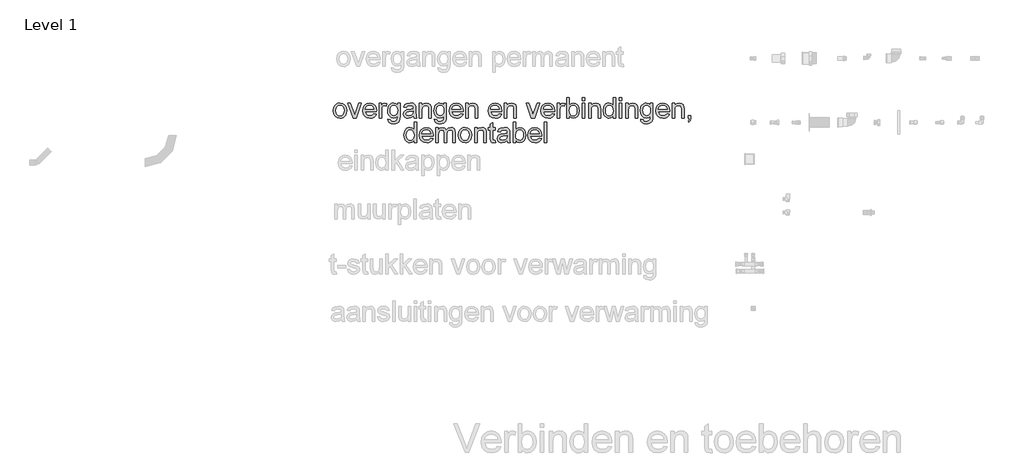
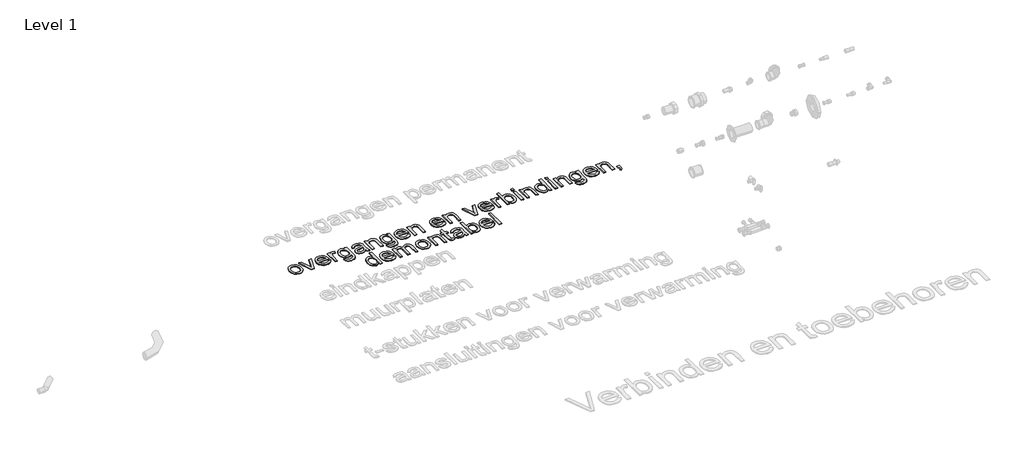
# One storey, part 6 of 7: 1 proxy.
"""IFC4 building model written with IfcOpenShell, lengths in millimetres."""

from ifc_helpers import new_model, si_unit, origin, origin_with_axes, place, context, project, spatial, polyline, outline, extrude, element, save

model = new_model("IFC4")

# Units and contexts
model_context = context("Model", 3, world=origin())
ifc_project = project(units=[si_unit("LENGTHUNIT", "METRE", prefix="MILLI")], contexts=[model_context])

# Site, building, storey
site = spatial("IfcSite", under=ifc_project)
building = spatial("IfcBuilding", under=site)
storey = spatial("IfcBuildingStorey", under=building, Name="Level 1", Elevation=0.0)

# Proxy
placement = place(None, origin())
element("IfcBuildingElementProxy", 1, Name="small", ObjectType="small", at=placement, inside=storey, context=model_context, shape_type="SweptSolid", body=[
    extrude(outline(polyline([(2256.3070309, 5306.4016737), (2260.1097045, 5331.3036059), (2271.5177252, 5348.806205), (2285.6125107, 5357.3815343), (2302.4884841, 5360.2399774), (2320.9567734, 5356.7592006), (2335.7082282, 5346.3168701), (2345.3780065, 5329.7370418), (2348.6012659, 5307.8437711), (2347.1763363, 5290.0836546), (2342.9015475, 5276.5639913), (2335.9013663, 5266.4392657), (2326.3002593, 5258.8639622), (2314.8965306, 5254.138518), (2302.4884841, 5252.5633699), (2283.797013, 5256.0312709), (2269.062726, 5266.4349737), (2259.4959547, 5283.3624506), (2256.3070309, 5306.4016737)]), holes=[polyline([(2273.8868852, 5306.4360093), (2275.9212726, 5290.5257262), (2282.0244349, 5279.1906688), (2291.2092221, 5272.4050853), (2302.4884841, 5270.1432242), (2313.7162426, 5272.4179612), (2322.8838619, 5279.2421722), (2328.9870242, 5290.7274481), (2331.0214116, 5306.9853798), (2328.9741483, 5322.4321316), (2322.8323584, 5333.6126786), (2313.6518632, 5340.398262), (2302.4884841, 5342.6601231), (2291.2092221, 5340.4068459), (2282.0244349, 5333.6470142), (2275.9212726, 5322.3377086), (2273.8868852, 5306.4360093)])]), origin_with_axes(), (0.0, 0.0, 1.0), 5.0),
    extrude(outline(polyline([(2393.7183138, 5254.7608517), (2357.391193, 5358.0424956), (2376.0011169, 5358.0424956), (2398.0102704, 5296.1696491), (2404.6370514, 5275.3622435), (2411.1264898, 5295.0022369), (2433.2729859, 5358.0424956), (2451.8829098, 5358.0424956), (2416.0021525, 5254.7608517), (2393.7183138, 5254.7608517)])), origin_with_axes(), (0.0, 0.0, 1.0), 5.0),
    extrude(outline(polyline([(2539.5761672, 5285.5255967), (2556.812665, 5283.3281149), (2550.6022038, 5270.3406542), (2540.6920759, 5260.6322484), (2527.3054633, 5254.5805895), (2510.6655475, 5252.5633699), (2490.038404, 5256.0441468), (2474.1667485, 5266.4864772), (2464.0463148, 5283.2122321), (2460.6728369, 5305.5432823), (2464.0806504, 5328.625425), (2474.3040911, 5345.8876745), (2489.9611488, 5356.6519017), (2509.6698136, 5360.2399774), (2528.7647285, 5356.6604856), (2544.0226343, 5345.9220101), (2554.0271851, 5328.6940963), (2557.3620354, 5305.6462893), (2557.2590285, 5300.9079692), (2478.2526912, 5300.9079692), (2481.2956884, 5287.7488302), (2488.3645409, 5278.07476), (2498.5665218, 5272.1261082), (2511.008904, 5270.1432242), (2528.2454018, 5273.8171391), (2539.5761672, 5285.5255967)]), holes=[polyline([(2478.2526912, 5318.4878235), (2539.7821811, 5318.4878235), (2532.7433723, 5334.4195664), (2522.4941799, 5340.5999839), (2509.6011423, 5342.6601231), (2497.7510501, 5341.0163037), (2487.9525131, 5336.0848456), (2481.141178, 5328.3979513), (2478.2526912, 5318.4878235)])]), origin_with_axes(), (0.0, 0.0, 1.0), 5.0),
    extrude(outline(polyline([(2574.9418897, 5254.7608517), (2574.9418897, 5358.0424956), (2590.3242622, 5358.0424956), (2590.3242622, 5342.7631301), (2601.2429998, 5356.8407477), (2612.2304087, 5360.2399774), (2629.8789343, 5354.8149442), (2624.0075377, 5339.0548796), (2611.6467026, 5342.6601231), (2601.7065311, 5339.1922222), (2595.3716032, 5329.5782394), (2592.521744, 5309.0455189), (2592.521744, 5254.7608517), (2574.9418897, 5254.7608517)])), origin_with_axes(), (0.0, 0.0, 1.0), 5.0),
    extrude(outline(polyline([(2636.4713797, 5245.9709246), (2654.0512339, 5243.7734428), (2659.7509523, 5234.5028165), (2676.8157718, 5230.5885521), (2694.8076539, 5235.0178513), (2703.3915671, 5247.4473577), (2704.593315, 5267.9457424), (2692.2153121, 5258.0570744), (2677.1247927, 5254.7608517), (2658.9998599, 5258.5978609), (2645.4844885, 5270.1088886), (2637.0765455, 5286.984862), (2634.2738979, 5306.9167085), (2639.304071, 5334.162049), (2645.4587368, 5345.2224212), (2653.8623878, 5353.4415181), (2664.2274631, 5358.5403626), (2676.2664014, 5360.2399774), (2691.9492108, 5356.3943843), (2704.593315, 5344.8576049), (2704.593315, 5358.0424956), (2722.1731693, 5358.0424956), (2722.1731693, 5268.8728051), (2720.9714214, 5248.2842892), (2717.3661779, 5234.7259983), (2711.1557166, 5225.7343492), (2702.1383158, 5218.8457588), (2690.5114053, 5214.4679631), (2676.4724153, 5213.0086978), (2660.1157686, 5215.064545), (2647.2356068, 5221.2320867), (2638.9735904, 5231.5284906), (2636.4713797, 5245.9709246)]), holes=[polyline([(2651.8537522, 5308.1184563), (2653.7293372, 5291.9935753), (2659.3560923, 5280.9074514), (2667.8155388, 5274.4823923), (2678.1891979, 5272.340706), (2688.4856018, 5274.4695165), (2696.9879679, 5280.8559479), (2702.6919782, 5291.8004373), (2704.593315, 5307.6034215), (2702.6361828, 5322.8441594), (2696.7647861, 5333.8186925), (2688.1379533, 5340.4497655), (2677.9145127, 5342.6601231), (2667.8756262, 5340.4841011), (2659.4590993, 5333.9560351), (2653.7550889, 5323.1445964), (2651.8537522, 5308.1184563)])]), origin_with_axes(), (0.0, 0.0, 1.0), 5.0),
    extrude(outline(polyline([(2814.4674042, 5267.9457424), (2797.4197525, 5256.0312709), (2778.5866469, 5252.5633699), (2763.8952795, 5254.6492609), (2753.058089, 5260.9069336), (2746.3755126, 5270.4093255), (2744.1479871, 5282.229374), (2747.5128811, 5296.1353134), (2756.3543117, 5306.2299954), (2768.6636433, 5311.9983851), (2783.8743375, 5314.6422304), (2814.3643972, 5320.6853053), (2814.4674042, 5324.5995697), (2813.2570724, 5332.4452664), (2809.6260771, 5337.5784465), (2801.5056952, 5341.3897039), (2790.1920976, 5342.6601231), (2772.4062294, 5339.2780613), (2763.9253232, 5327.2777506), (2746.3454689, 5329.4752324), (2753.950816, 5346.6430588), (2769.2645172, 5356.7034051), (2792.4582507, 5360.2399774), (2813.7635233, 5357.115433), (2825.7981697, 5349.2697363), (2831.1888672, 5337.3380969), (2832.0472585, 5321.9557244), (2832.0472585, 5300.0839135), (2832.9399855, 5269.5423503), (2836.4422221, 5254.7608517), (2818.8623678, 5254.7608517), (2814.4674042, 5267.9457424)]), holes=[polyline([(2814.4674042, 5303.105451), (2786.1061549, 5297.7147535), (2770.9812998, 5294.8648943), (2764.1313371, 5290.2295812), (2761.7278414, 5283.4654575), (2766.9640284, 5273.9544817), (2782.3292331, 5270.1432242), (2800.1151013, 5274.3493417), (2811.5832094, 5284.5298628), (2814.3643972, 5298.1267813), (2814.4674042, 5303.105451)])]), origin_with_axes(), (0.0, 0.0, 1.0), 5.0),
    extrude(outline(polyline([(2856.2195581, 5254.7608517), (2856.2195581, 5358.0424956), (2873.7994124, 5358.0424956), (2873.7994124, 5343.6215214), (2887.2418205, 5356.0853634), (2905.594227, 5360.2399774), (2922.1955151, 5356.8922512), (2933.5262806, 5348.1023241), (2938.7968033, 5335.1749508), (2939.7238659, 5318.1788026), (2939.7238659, 5254.7608517), (2922.1440116, 5254.7608517), (2922.1440116, 5315.8096426), (2920.1182081, 5331.3636933), (2912.9592245, 5339.5870822), (2900.8902425, 5342.6601231), (2890.5938386, 5340.9347565), (2881.8167873, 5335.7586569), (2875.8037561, 5325.758398), (2873.7994124, 5309.5605537), (2873.7994124, 5254.7608517), (2856.2195581, 5254.7608517)])), origin_with_axes(), (0.0, 0.0, 1.0), 5.0),
    extrude(outline(polyline([(2959.501202, 5245.9709246), (2977.0810563, 5243.7734428), (2982.7807746, 5234.5028165), (2999.8455941, 5230.5885521), (3017.8374762, 5235.0178513), (3026.4213895, 5247.4473577), (3027.6231373, 5267.9457424), (3015.2451344, 5258.0570744), (3000.154615, 5254.7608517), (2982.0296822, 5258.5978609), (2968.5143109, 5270.1088886), (2960.1063679, 5286.984862), (2957.3037202, 5306.9167085), (2962.3338933, 5334.162049), (2968.4885591, 5345.2224212), (2976.8922102, 5353.4415181), (2987.2572854, 5358.5403626), (2999.2962237, 5360.2399774), (3014.9790331, 5356.3943843), (3027.6231373, 5344.8576049), (3027.6231373, 5358.0424956), (3045.2029916, 5358.0424956), (3045.2029916, 5268.8728051), (3044.0012437, 5248.2842892), (3040.3960002, 5234.7259983), (3034.185539, 5225.7343492), (3025.1681381, 5218.8457588), (3013.5412277, 5214.4679631), (2999.5022376, 5213.0086978), (2983.145591, 5215.064545), (2970.2654292, 5221.2320867), (2962.0034127, 5231.5284906), (2959.501202, 5245.9709246)]), holes=[polyline([(2974.8835745, 5308.1184563), (2976.7591595, 5291.9935753), (2982.3859146, 5280.9074514), (2990.8453611, 5274.4823923), (3001.2190202, 5272.340706), (3011.5154241, 5274.4695165), (3020.0177902, 5280.8559479), (3025.7218005, 5291.8004373), (3027.6231373, 5307.6034215), (3025.6660051, 5322.8441594), (3019.7946084, 5333.8186925), (3011.1677757, 5340.4497655), (3000.944335, 5342.6601231), (2990.9054485, 5340.4841011), (2982.4889216, 5333.9560351), (2976.7849113, 5323.1445964), (2974.8835745, 5308.1184563)])]), origin_with_axes(), (0.0, 0.0, 1.0), 5.0),
    extrude(outline(polyline([(3143.883658, 5285.5255967), (3161.1201557, 5283.3281149), (3154.9096945, 5270.3406542), (3144.9995667, 5260.6322484), (3131.612954, 5254.5805895), (3114.9730382, 5252.5633699), (3094.3458948, 5256.0441468), (3078.4742392, 5266.4864772), (3068.3538055, 5283.2122321), (3064.9803276, 5305.5432823), (3068.3881412, 5328.625425), (3078.6115818, 5345.8876745), (3094.2686396, 5356.6519017), (3113.9773043, 5360.2399774), (3133.0722193, 5356.6604856), (3148.330125, 5345.9220101), (3158.3346759, 5328.6940963), (3161.6695262, 5305.6462893), (3161.5665192, 5300.9079692), (3082.5601819, 5300.9079692), (3085.6031792, 5287.7488302), (3092.6720317, 5278.07476), (3102.8740126, 5272.1261082), (3115.3163948, 5270.1432242), (3132.5528925, 5273.8171391), (3143.883658, 5285.5255967)]), holes=[polyline([(3082.5601819, 5318.4878235), (3144.0896719, 5318.4878235), (3137.050863, 5334.4195664), (3126.8016707, 5340.5999839), (3113.908633, 5342.6601231), (3102.0585408, 5341.0163037), (3092.2600039, 5336.0848456), (3085.4486687, 5328.3979513), (3082.5601819, 5318.4878235)])]), origin_with_axes(), (0.0, 0.0, 1.0), 5.0),
    extrude(outline(polyline([(3179.2493804, 5254.7608517), (3179.2493804, 5358.0424956), (3196.8292347, 5358.0424956), (3196.8292347, 5343.6215214), (3210.2716428, 5356.0853634), (3228.6240493, 5360.2399774), (3245.2253375, 5356.8922512), (3256.5561029, 5348.1023241), (3261.8266256, 5335.1749508), (3262.7536882, 5318.1788026), (3262.7536882, 5254.7608517), (3245.173834, 5254.7608517), (3245.173834, 5315.8096426), (3243.1480305, 5331.3636933), (3235.9890468, 5339.5870822), (3223.9200648, 5342.6601231), (3213.6236609, 5340.9347565), (3204.8466097, 5335.7586569), (3198.8335785, 5325.758398), (3196.8292347, 5309.5605537), (3196.8292347, 5254.7608517), (3179.2493804, 5254.7608517)])), origin_with_axes(), (0.0, 0.0, 1.0), 5.0),
    extrude(outline(polyline([(3414.1739175, 5285.5255967), (3431.4104152, 5283.3281149), (3425.199954, 5270.3406542), (3415.2898262, 5260.6322484), (3401.9032135, 5254.5805895), (3385.2632977, 5252.5633699), (3364.6361543, 5256.0441468), (3348.7644987, 5266.4864772), (3338.644065, 5283.2122321), (3335.2705871, 5305.5432823), (3338.6784007, 5328.625425), (3348.9018413, 5345.8876745), (3364.558899, 5356.6519017), (3384.2675638, 5360.2399774), (3403.3624788, 5356.6604856), (3418.6203845, 5345.9220101), (3428.6249354, 5328.6940963), (3431.9597857, 5305.6462893), (3431.8567787, 5300.9079692), (3352.8504414, 5300.9079692), (3355.8934387, 5287.7488302), (3362.9622912, 5278.07476), (3373.1642721, 5272.1261082), (3385.6066543, 5270.1432242), (3402.843152, 5273.8171391), (3414.1739175, 5285.5255967)]), holes=[polyline([(3352.8504414, 5318.4878235), (3414.3799314, 5318.4878235), (3407.3411225, 5334.4195664), (3397.0919302, 5340.5999839), (3384.1988925, 5342.6601231), (3372.3488003, 5341.0163037), (3362.5502634, 5336.0848456), (3355.7389282, 5328.3979513), (3352.8504414, 5318.4878235)])]), origin_with_axes(), (0.0, 0.0, 1.0), 5.0),
    extrude(outline(polyline([(3449.5396399, 5254.7608517), (3449.5396399, 5358.0424956), (3467.1194942, 5358.0424956), (3467.1194942, 5343.6215214), (3480.5619023, 5356.0853634), (3498.9143088, 5360.2399774), (3515.5155969, 5356.8922512), (3526.8463624, 5348.1023241), (3532.1168851, 5335.1749508), (3533.0439477, 5318.1788026), (3533.0439477, 5254.7608517), (3515.4640935, 5254.7608517), (3515.4640935, 5315.8096426), (3513.4382899, 5331.3636933), (3506.2793063, 5339.5870822), (3494.2103243, 5342.6601231), (3483.9139204, 5340.9347565), (3475.1368692, 5335.7586569), (3469.1238379, 5325.758398), (3467.1194942, 5309.5605537), (3467.1194942, 5254.7608517), (3449.5396399, 5254.7608517)])), origin_with_axes(), (0.0, 0.0, 1.0), 5.0),
    extrude(outline(polyline([(3637.4930038, 5254.7608517), (3601.1658831, 5358.0424956), (3619.7758069, 5358.0424956), (3641.7849604, 5296.1696491), (3648.4117414, 5275.3622435), (3654.9011798, 5295.0022369), (3677.0476759, 5358.0424956), (3695.6575998, 5358.0424956), (3659.7768425, 5254.7608517), (3637.4930038, 5254.7608517)])), origin_with_axes(), (0.0, 0.0, 1.0), 5.0),
    extrude(outline(polyline([(3783.3508573, 5285.5255967), (3800.587355, 5283.3281149), (3794.3768938, 5270.3406542), (3784.466766, 5260.6322484), (3771.0801533, 5254.5805895), (3754.4402375, 5252.5633699), (3733.8130941, 5256.0441468), (3717.9414385, 5266.4864772), (3707.8210048, 5283.2122321), (3704.4475269, 5305.5432823), (3707.8553405, 5328.625425), (3718.0787811, 5345.8876745), (3733.7358388, 5356.6519017), (3753.4445036, 5360.2399774), (3772.5394186, 5356.6604856), (3787.7973243, 5345.9220101), (3797.8018752, 5328.6940963), (3801.1367255, 5305.6462893), (3801.0337185, 5300.9079692), (3722.0273812, 5300.9079692), (3725.0703785, 5287.7488302), (3732.139231, 5278.07476), (3742.3412119, 5272.1261082), (3754.7835941, 5270.1432242), (3772.0200918, 5273.8171391), (3783.3508573, 5285.5255967)]), holes=[polyline([(3722.0273812, 5318.4878235), (3783.5568712, 5318.4878235), (3776.5180623, 5334.4195664), (3766.26887, 5340.5999839), (3753.3758323, 5342.6601231), (3741.5257401, 5341.0163037), (3731.7272032, 5336.0848456), (3724.915868, 5328.3979513), (3722.0273812, 5318.4878235)])]), origin_with_axes(), (0.0, 0.0, 1.0), 5.0),
    extrude(outline(polyline([(3818.7165797, 5254.7608517), (3818.7165797, 5358.0424956), (3834.0989522, 5358.0424956), (3834.0989522, 5342.7631301), (3845.0176898, 5356.8407477), (3856.0050988, 5360.2399774), (3873.6536243, 5354.8149442), (3867.7822277, 5339.0548796), (3855.4213927, 5342.6601231), (3845.4812212, 5339.1922222), (3839.1462932, 5329.5782394), (3836.296434, 5309.0455189), (3836.296434, 5254.7608517), (3818.7165797, 5254.7608517)])), origin_with_axes(), (0.0, 0.0, 1.0), 5.0),
    extrude(outline(polyline([(3902.2208875, 5254.7608517), (3884.6410333, 5254.7608517), (3884.6410333, 5395.3996859), (3902.2208875, 5395.3996859), (3902.2208875, 5343.2438292), (3914.5302191, 5355.9909403), (3929.8267525, 5360.2399774), (3947.4409424, 5356.4115521), (3961.1065322, 5345.6473249), (3969.5015994, 5328.9086941), (3972.5403046, 5307.946778), (3969.3943005, 5284.4783593), (3959.9562879, 5267.0186798), (3946.1061439, 5256.1771974), (3929.7237455, 5252.5633699), (3914.0924395, 5257.2244348), (3902.2208875, 5271.2076295), (3902.2208875, 5254.7608517)]), holes=[polyline([(3902.2208875, 5307.1227224), (3903.4226354, 5292.4613986), (3907.0278789, 5282.5383949), (3916.2384178, 5273.2420169), (3928.2129768, 5270.1432242), (3938.3591622, 5272.4265451), (3947.0289146, 5279.2765079), (3952.9775664, 5290.6501929), (3954.9604504, 5306.5046806), (3953.0591136, 5322.590934), (3947.3551033, 5333.8358603), (3938.9557442, 5340.4540574), (3928.9683611, 5342.6601231), (3918.8221757, 5340.3768022), (3910.1524234, 5333.5268394), (3904.2037715, 5322.3591683), (3902.2208875, 5307.1227224)])]), origin_with_axes(), (0.0, 0.0, 1.0), 5.0),
    extrude(outline(polyline([(3992.3176407, 5254.7608517), (3992.3176407, 5358.0424956), (4009.897495, 5358.0424956), (4009.897495, 5254.7608517), (3992.3176407, 5254.7608517)])), origin_with_axes(), (0.0, 0.0, 1.0), 5.0),
    extrude(outline(polyline([(3992.3176407, 5377.8198317), (3992.3176407, 5395.3996859), (4009.897495, 5395.3996859), (4009.897495, 5377.8198317), (3992.3176407, 5377.8198317)])), origin_with_axes(), (0.0, 0.0, 1.0), 5.0),
    extrude(outline(polyline([(4036.2672764, 5254.7608517), (4036.2672764, 5358.0424956), (4053.8471307, 5358.0424956), (4053.8471307, 5343.6215214), (4067.2895388, 5356.0853634), (4085.6419452, 5360.2399774), (4102.2432334, 5356.8922512), (4113.5739989, 5348.1023241), (4118.8445216, 5335.1749508), (4119.7715842, 5318.1788026), (4119.7715842, 5254.7608517), (4102.1917299, 5254.7608517), (4102.1917299, 5315.8096426), (4100.1659264, 5331.3636933), (4093.0069428, 5339.5870822), (4080.9379608, 5342.6601231), (4070.6415569, 5340.9347565), (4061.8645056, 5335.7586569), (4055.8514744, 5325.758398), (4053.8471307, 5309.5605537), (4053.8471307, 5254.7608517), (4036.2672764, 5254.7608517)])), origin_with_axes(), (0.0, 0.0, 1.0), 5.0),
    extrude(outline(polyline([(4207.6708556, 5254.7608517), (4207.6708556, 5271.3449721), (4196.0396532, 5257.2587705), (4179.9619837, 5252.5633699), (4168.5968826, 5254.2629848), (4158.1931798, 5259.3618292), (4149.3860848, 5267.5036709), (4142.8108073, 5278.3322774), (4137.3514385, 5306.2986667), (4142.3816116, 5334.2822238), (4148.6650361, 5345.3812236), (4157.4549633, 5353.5445251), (4168.0861398, 5358.5661143), (4179.8933124, 5360.2399774), (4196.0997406, 5355.4501538), (4207.6708556, 5343.0034796), (4207.6708556, 5395.3996859), (4225.2507099, 5395.3996859), (4225.2507099, 5254.7608517), (4207.6708556, 5254.7608517)]), holes=[polyline([(4154.9312928, 5306.367338), (4156.9141767, 5290.4656388), (4162.8628286, 5279.1563331), (4171.5068292, 5272.3965014), (4181.5757594, 5270.1432242), (4191.6403977, 5272.2934945), (4200.0655085, 5278.7443053), (4205.7695188, 5289.6158314), (4207.6708556, 5305.0282475), (4205.7351832, 5321.8784692), (4199.9281659, 5333.5611751), (4191.2884572, 5340.3853861), (4180.8547107, 5342.6601231), (4170.6827735, 5340.4755172), (4162.3477938, 5333.9216994), (4156.785418, 5322.6638973), (4154.9312928, 5306.367338)])]), origin_with_axes(), (0.0, 0.0, 1.0), 5.0),
    extrude(outline(polyline([(4251.6204913, 5254.7608517), (4251.6204913, 5358.0424956), (4269.2003456, 5358.0424956), (4269.2003456, 5254.7608517), (4251.6204913, 5254.7608517)])), origin_with_axes(), (0.0, 0.0, 1.0), 5.0),
    extrude(outline(polyline([(4251.6204913, 5377.8198317), (4251.6204913, 5395.3996859), (4269.2003456, 5395.3996859), (4269.2003456, 5377.8198317), (4251.6204913, 5377.8198317)])), origin_with_axes(), (0.0, 0.0, 1.0), 5.0),
    extrude(outline(polyline([(4295.570127, 5254.7608517), (4295.570127, 5358.0424956), (4313.1499813, 5358.0424956), (4313.1499813, 5343.6215214), (4326.5923894, 5356.0853634), (4344.9447958, 5360.2399774), (4361.546084, 5356.8922512), (4372.8768494, 5348.1023241), (4378.1473722, 5335.1749508), (4379.0744348, 5318.1788026), (4379.0744348, 5254.7608517), (4361.4945805, 5254.7608517), (4361.4945805, 5315.8096426), (4359.468777, 5331.3636933), (4352.3097934, 5339.5870822), (4340.2408114, 5342.6601231), (4329.9444075, 5340.9347565), (4321.1673562, 5335.7586569), (4315.154325, 5325.758398), (4313.1499813, 5309.5605537), (4313.1499813, 5254.7608517), (4295.570127, 5254.7608517)])), origin_with_axes(), (0.0, 0.0, 1.0), 5.0),
    extrude(outline(polyline([(4398.8517708, 5245.9709246), (4416.4316251, 5243.7734428), (4422.1313435, 5234.5028165), (4439.196163, 5230.5885521), (4457.1880451, 5235.0178513), (4465.7719583, 5247.4473577), (4466.9737062, 5267.9457424), (4454.5957033, 5258.0570744), (4439.5051839, 5254.7608517), (4421.3802511, 5258.5978609), (4407.8648797, 5270.1088886), (4399.4569367, 5286.984862), (4396.6542891, 5306.9167085), (4401.6844622, 5334.162049), (4407.839128, 5345.2224212), (4416.242779, 5353.4415181), (4426.6078542, 5358.5403626), (4438.6467925, 5360.2399774), (4454.329602, 5356.3943843), (4466.9737062, 5344.8576049), (4466.9737062, 5358.0424956), (4484.5535604, 5358.0424956), (4484.5535604, 5268.8728051), (4483.3518126, 5248.2842892), (4479.746569, 5234.7259983), (4473.5361078, 5225.7343492), (4464.518707, 5218.8457588), (4452.8917965, 5214.4679631), (4438.8528065, 5213.0086978), (4422.4961598, 5215.064545), (4409.615998, 5221.2320867), (4401.3539816, 5231.5284906), (4398.8517708, 5245.9709246)]), holes=[polyline([(4414.2341433, 5308.1184563), (4416.1097284, 5291.9935753), (4421.7364835, 5280.9074514), (4430.19593, 5274.4823923), (4440.5695891, 5272.340706), (4450.865993, 5274.4695165), (4459.3683591, 5280.8559479), (4465.0723694, 5291.8004373), (4466.9737062, 5307.6034215), (4465.016574, 5322.8441594), (4459.1451773, 5333.8186925), (4450.5183445, 5340.4497655), (4440.2949039, 5342.6601231), (4430.2560174, 5340.4841011), (4421.8394905, 5333.9560351), (4416.1354801, 5323.1445964), (4414.2341433, 5308.1184563)])]), origin_with_axes(), (0.0, 0.0, 1.0), 5.0),
    extrude(outline(polyline([(4583.2342268, 5285.5255967), (4600.4707246, 5283.3281149), (4594.2602634, 5270.3406542), (4584.3501355, 5260.6322484), (4570.9635229, 5254.5805895), (4554.3236071, 5252.5633699), (4533.6964636, 5256.0441468), (4517.8248081, 5266.4864772), (4507.7043744, 5283.2122321), (4504.3308965, 5305.5432823), (4507.7387101, 5328.625425), (4517.9621507, 5345.8876745), (4533.6192084, 5356.6519017), (4553.3278732, 5360.2399774), (4572.4227881, 5356.6604856), (4587.6806939, 5345.9220101), (4597.6852447, 5328.6940963), (4601.020095, 5305.6462893), (4600.9170881, 5300.9079692), (4521.9107508, 5300.9079692), (4524.953748, 5287.7488302), (4532.0226006, 5278.07476), (4542.2245814, 5272.1261082), (4554.6669636, 5270.1432242), (4571.9034614, 5273.8171391), (4583.2342268, 5285.5255967)]), holes=[polyline([(4521.9107508, 5318.4878235), (4583.4402407, 5318.4878235), (4576.4014319, 5334.4195664), (4566.1522395, 5340.5999839), (4553.2592019, 5342.6601231), (4541.4091097, 5341.0163037), (4531.6105727, 5336.0848456), (4524.7992376, 5328.3979513), (4521.9107508, 5318.4878235)])]), origin_with_axes(), (0.0, 0.0, 1.0), 5.0),
    extrude(outline(polyline([(4618.5999493, 5254.7608517), (4618.5999493, 5358.0424956), (4636.1798036, 5358.0424956), (4636.1798036, 5343.6215214), (4649.6222117, 5356.0853634), (4667.9746181, 5360.2399774), (4684.5759063, 5356.8922512), (4695.9066718, 5348.1023241), (4701.1771945, 5335.1749508), (4702.1042571, 5318.1788026), (4702.1042571, 5254.7608517), (4684.5244028, 5254.7608517), (4684.5244028, 5315.8096426), (4682.4985993, 5331.3636933), (4675.3396157, 5339.5870822), (4663.2706337, 5342.6601231), (4652.9742298, 5340.9347565), (4644.1971785, 5335.7586569), (4638.1841473, 5325.758398), (4636.1798036, 5309.5605537), (4636.1798036, 5254.7608517), (4618.5999493, 5254.7608517)])), origin_with_axes(), (0.0, 0.0, 1.0), 5.0),
    extrude(outline(polyline([(4730.6715203, 5254.7608517), (4730.6715203, 5272.340706), (4748.2513746, 5272.340706), (4748.2513746, 5254.7608517), (4745.0924945, 5236.7861374), (4735.0664839, 5226.1935885), (4730.6715203, 5232.7860339), (4737.1266231, 5240.3742132), (4739.4271118, 5254.7608517), (4730.6715203, 5254.7608517)])), origin_with_axes(), (0.0, 0.0, 1.0), 5.0),
    extrude(outline(polyline([(2818.8623678, 5083.9961067), (2818.8623678, 5100.5802271), (2807.2311654, 5086.4940255), (2791.1534959, 5081.798625), (2779.7883948, 5083.4982398), (2769.384692, 5088.5970842), (2760.577597, 5096.7389259), (2754.0023195, 5107.5675324), (2748.5429507, 5135.5339217), (2753.5731238, 5163.5174788), (2759.8565483, 5174.6164786), (2768.6464754, 5182.7797801), (2779.277652, 5187.8013693), (2791.0848246, 5189.4752324), (2807.2912528, 5184.6854088), (2818.8623678, 5172.2387347), (2818.8623678, 5224.634941), (2836.4422221, 5224.634941), (2836.4422221, 5083.9961067), (2818.8623678, 5083.9961067)]), holes=[polyline([(2766.1228049, 5135.602593), (2768.1056889, 5119.7008938), (2774.0543408, 5108.3915881), (2782.6983414, 5101.6317565), (2792.7672716, 5099.3784792), (2802.8319098, 5101.5287495), (2811.2570207, 5107.9795603), (2816.961031, 5118.8510864), (2818.8623678, 5134.2635026), (2816.9266953, 5151.1137242), (2811.1196781, 5162.7964301), (2802.4799694, 5169.6206411), (2792.0462229, 5171.8953781), (2781.8742857, 5169.7107722), (2773.539306, 5163.1569545), (2767.9769302, 5151.8991523), (2766.1228049, 5135.602593)])]), origin_with_axes(), (0.0, 0.0, 1.0), 5.0),
    extrude(outline(polyline([(2935.1228884, 5114.7608517), (2952.3593862, 5112.5633699), (2946.148925, 5099.5759092), (2936.2387972, 5089.8675034), (2922.8521845, 5083.8158446), (2906.2122687, 5081.798625), (2885.5851252, 5085.2794018), (2869.7134697, 5095.7217322), (2859.593036, 5112.4474871), (2856.2195581, 5134.7785374), (2859.6273717, 5157.86068), (2869.8508123, 5175.1229295), (2885.50787, 5185.8871567), (2905.2165348, 5189.4752324), (2924.3114497, 5185.8957406), (2939.5693555, 5175.1572651), (2949.5739063, 5157.9293513), (2952.9087566, 5134.8815443), (2952.8057497, 5130.1432242), (2873.7994124, 5130.1432242), (2876.8424096, 5116.9840852), (2883.9112622, 5107.310015), (2894.113243, 5101.3613632), (2906.5556252, 5099.3784792), (2923.792123, 5103.0523941), (2935.1228884, 5114.7608517)]), holes=[polyline([(2873.7994124, 5147.7230785), (2935.3289024, 5147.7230785), (2928.2900935, 5163.6548214), (2918.0409011, 5169.8352389), (2905.1478635, 5171.8953781), (2893.2977713, 5170.2515587), (2883.4992343, 5165.3201006), (2876.6878992, 5157.6332063), (2873.7994124, 5147.7230785)])]), origin_with_axes(), (0.0, 0.0, 1.0), 5.0),
    extrude(outline(polyline([(2970.4886109, 5083.9961067), (2970.4886109, 5187.2777506), (2988.0684652, 5187.2777506), (2988.0684652, 5170.2816024), (3000.154615, 5184.2047097), (3017.3567771, 5189.4752324), (3034.970967, 5184.1017027), (3044.6536211, 5169.0455189), (3058.3707145, 5184.367804), (3075.6930513, 5189.4752324), (3088.9079857, 5187.3507139), (3098.6807709, 5180.9771583), (3104.7195539, 5170.1828874), (3106.7324815, 5154.796223), (3106.7324815, 5083.9961067), (3089.1526273, 5083.9961067), (3089.1526273, 5147.2423794), (3087.5216838, 5161.920871), (3081.6159515, 5169.1485259), (3071.572773, 5171.8953781), (3062.0489213, 5170.1356759), (3054.2847718, 5164.8565693), (3049.121548, 5155.6975339), (3047.4004734, 5142.2980453), (3047.4004734, 5083.9961067), (3029.8206191, 5083.9961067), (3029.8206191, 5149.1995116), (3025.7518442, 5166.2299954), (3020.3826065, 5170.4790324), (3012.4124431, 5171.8953781), (2999.3992306, 5168.1184563), (2990.7466461, 5157.0623761), (2988.0684652, 5136.0832922), (2988.0684652, 5083.9961067), (2970.4886109, 5083.9961067)])), origin_with_axes(), (0.0, 0.0, 1.0), 5.0),
    extrude(outline(polyline([(3128.7072994, 5135.6369287), (3132.5099729, 5160.5388609), (3143.9179936, 5178.04146), (3158.0127791, 5186.6167893), (3174.8887525, 5189.4752324), (3193.3570418, 5185.9944556), (3208.1084967, 5175.5521252), (3217.7782749, 5158.9722968), (3221.0015343, 5137.0790261), (3219.5766047, 5119.3189096), (3215.301816, 5105.7992463), (3208.3016347, 5095.6745207), (3198.7005278, 5088.0992173), (3187.2967991, 5083.373773), (3174.8887525, 5081.798625), (3156.1972815, 5085.2665259), (3141.4629944, 5095.6702287), (3131.8962232, 5112.5977056), (3128.7072994, 5135.6369287)]), holes=[polyline([(3146.2871537, 5135.6712643), (3148.3215411, 5119.7609812), (3154.4247034, 5108.4259238), (3163.6094905, 5101.6403404), (3174.8887525, 5099.3784792), (3186.116511, 5101.6532162), (3195.2841303, 5108.4774272), (3201.3872926, 5119.9627031), (3203.4216801, 5136.2206348), (3201.3744168, 5151.6673866), (3195.2326269, 5162.8479336), (3186.0521317, 5169.633517), (3174.8887525, 5171.8953781), (3163.6094905, 5169.6421009), (3154.4247034, 5162.8822692), (3148.3215411, 5151.5729636), (3146.2871537, 5135.6712643)])]), origin_with_axes(), (0.0, 0.0, 1.0), 5.0),
    extrude(outline(polyline([(3240.7788704, 5083.9961067), (3240.7788704, 5187.2777506), (3258.3587247, 5187.2777506), (3258.3587247, 5172.8567764), (3271.8011328, 5185.3206184), (3290.1535392, 5189.4752324), (3306.7548274, 5186.1275062), (3318.0855929, 5177.3375791), (3323.3561156, 5164.4102058), (3324.2831782, 5147.4140576), (3324.2831782, 5083.9961067), (3306.7033239, 5083.9961067), (3306.7033239, 5145.0448976), (3304.6775204, 5160.5989483), (3297.5185368, 5168.8223372), (3285.4495548, 5171.8953781), (3275.1531509, 5170.1700116), (3266.3760996, 5164.9939119), (3260.3630684, 5154.993653), (3258.3587247, 5138.7958087), (3258.3587247, 5083.9961067), (3240.7788704, 5083.9961067)])), origin_with_axes(), (0.0, 0.0, 1.0), 5.0),
    extrude(outline(polyline([(3385.8126682, 5098.6574305), (3388.01015, 5083.4810719), (3374.8595949, 5081.798625), (3360.1295998, 5084.7171555), (3352.7817701, 5092.374006), (3350.6529596, 5112.3230204), (3350.6529596, 5169.6978963), (3337.4680689, 5169.6978963), (3337.4680689, 5187.2777506), (3350.6529596, 5187.2777506), (3350.6529596, 5212.3771129), (3368.2328139, 5222.7121444), (3368.2328139, 5187.2777506), (3385.8126682, 5187.2777506), (3385.8126682, 5169.6978963), (3368.2328139, 5169.6978963), (3368.2328139, 5112.8380552), (3369.1598765, 5103.7734428), (3372.1642462, 5100.5630593), (3378.1558176, 5099.3784792), (3385.8126682, 5098.6574305)])), origin_with_axes(), (0.0, 0.0, 1.0), 5.0),
    extrude(outline(polyline([(3469.316976, 5097.1809974), (3452.2693243, 5085.2665259), (3433.4362187, 5081.798625), (3418.7448513, 5083.8845159), (3407.9076608, 5090.1421886), (3401.2250844, 5099.6445805), (3398.9975589, 5111.464629), (3402.3624529, 5125.3705685), (3411.2038835, 5135.4652504), (3423.513215, 5141.2336401), (3438.7239093, 5143.8774854), (3469.213969, 5149.9205603), (3469.316976, 5153.8348247), (3468.1066442, 5161.6805214), (3464.4756489, 5166.8137015), (3456.355267, 5170.624959), (3445.0416694, 5171.8953781), (3427.2558012, 5168.5133163), (3418.774895, 5156.5130056), (3401.1950407, 5158.7104874), (3408.8003878, 5175.8783139), (3424.114089, 5185.9386602), (3447.3078225, 5189.4752324), (3468.6130951, 5186.350688), (3480.6477414, 5178.5049913), (3486.0384389, 5166.5733519), (3486.8968303, 5151.1909794), (3486.8968303, 5129.3191685), (3487.7895572, 5098.7776053), (3491.2917938, 5083.9961067), (3473.7119396, 5083.9961067), (3469.316976, 5097.1809974)]), holes=[polyline([(3469.316976, 5132.340706), (3440.9557267, 5126.9500085), (3425.8308716, 5124.1001493), (3418.9809089, 5119.4648362), (3416.5774132, 5112.7007126), (3421.8136002, 5103.1897367), (3437.1788049, 5099.3784792), (3454.9646731, 5103.5845967), (3466.4327812, 5113.7651178), (3469.213969, 5127.3620363), (3469.316976, 5132.340706)])]), origin_with_axes(), (0.0, 0.0, 1.0), 5.0),
    extrude(outline(polyline([(3528.6489842, 5083.9961067), (3511.0691299, 5083.9961067), (3511.0691299, 5224.634941), (3528.6489842, 5224.634941), (3528.6489842, 5172.4790842), (3540.9583157, 5185.2261954), (3556.2548491, 5189.4752324), (3573.869039, 5185.6468071), (3587.5346289, 5174.8825799), (3595.929696, 5158.1439491), (3598.9684013, 5137.1820331), (3595.8223971, 5113.7136143), (3586.3843845, 5096.2539348), (3572.5342405, 5085.4124524), (3556.1518421, 5081.798625), (3540.5205362, 5086.4596898), (3528.6489842, 5100.4428845), (3528.6489842, 5083.9961067)]), holes=[polyline([(3528.6489842, 5136.3579774), (3529.850732, 5121.6966536), (3533.4559756, 5111.7736499), (3542.6665145, 5102.4772719), (3554.6410734, 5099.3784792), (3564.7872588, 5101.6618001), (3573.4570112, 5108.5117629), (3579.4056631, 5119.8854479), (3581.388547, 5135.7399356), (3579.4872102, 5151.826189), (3573.7831999, 5163.0711153), (3565.3838408, 5169.6893124), (3555.3964578, 5171.8953781), (3545.2502723, 5169.6120572), (3536.58052, 5162.7620945), (3530.6318681, 5151.5944234), (3528.6489842, 5136.3579774)])]), origin_with_axes(), (0.0, 0.0, 1.0), 5.0),
    extrude(outline(polyline([(3691.0566223, 5114.7608517), (3708.2931201, 5112.5633699), (3702.0826588, 5099.5759092), (3692.172531, 5089.8675034), (3678.7859184, 5083.8158446), (3662.1460026, 5081.798625), (3641.5188591, 5085.2794018), (3625.6472036, 5095.7217322), (3615.5267699, 5112.4474871), (3612.153292, 5134.7785374), (3615.5611055, 5157.86068), (3625.7845462, 5175.1229295), (3641.4416039, 5185.8871567), (3661.1502687, 5189.4752324), (3680.2451836, 5185.8957406), (3695.5030894, 5175.1572651), (3705.5076402, 5157.9293513), (3708.8424905, 5134.8815443), (3708.7394835, 5130.1432242), (3629.7331463, 5130.1432242), (3632.7761435, 5116.9840852), (3639.844996, 5107.310015), (3650.0469769, 5101.3613632), (3662.4893591, 5099.3784792), (3679.7258569, 5103.0523941), (3691.0566223, 5114.7608517)]), holes=[polyline([(3629.7331463, 5147.7230785), (3691.2626362, 5147.7230785), (3684.2238274, 5163.6548214), (3673.974635, 5169.8352389), (3661.0815973, 5171.8953781), (3649.2315051, 5170.2515587), (3639.4329682, 5165.3201006), (3632.6216331, 5157.6332063), (3629.7331463, 5147.7230785)])]), origin_with_axes(), (0.0, 0.0, 1.0), 5.0),
    extrude(outline(polyline([(3726.4223448, 5083.9961067), (3726.4223448, 5224.634941), (3744.0021991, 5224.634941), (3744.0021991, 5083.9961067), (3726.4223448, 5083.9961067)])), origin_with_axes(), (0.0, 0.0, 1.0), 5.0),
])

save(model, "model.ifc")
